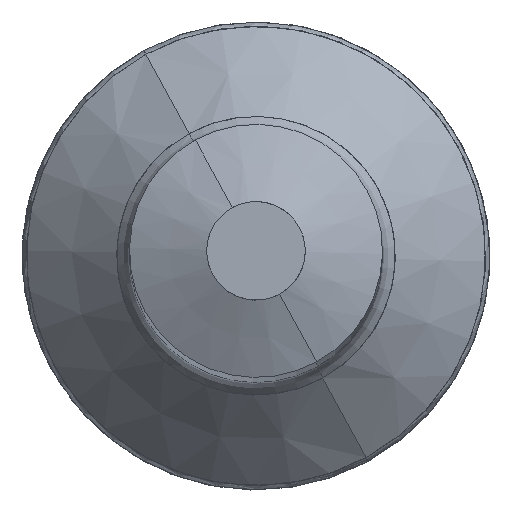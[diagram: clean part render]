
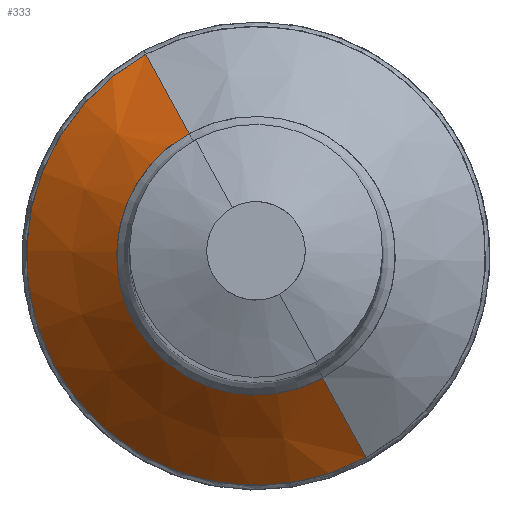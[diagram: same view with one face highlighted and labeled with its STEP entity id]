
A CAD part, top view. The second image highlights one B-rep face of the part: STEP entity #333.
In plain terms, the highlighted conical face has half-angle 45 degrees and reference radius 0 mm.
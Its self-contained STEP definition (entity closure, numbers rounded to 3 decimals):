
#333=ADVANCED_FACE('',(#377),#353,.F.);
#353=CONICAL_SURFACE('',#1028,0.,45.);
#377=FACE_OUTER_BOUND('',#407,.T.);
#407=EDGE_LOOP('',(#566,#567,#568,#569));
#460=B_SPLINE_CURVE_WITH_KNOTS('',3,(#1582,#1583,#1584,#1585),
 .UNSPECIFIED.,.F.,.F.,(4,4),(0.,1.),.UNSPECIFIED.);
#461=B_SPLINE_CURVE_WITH_KNOTS('',3,(#1589,#1590,#1591,#1592),
 .UNSPECIFIED.,.F.,.F.,(4,4),(0.,1.),.UNSPECIFIED.);
#566=ORIENTED_EDGE('',*,*,#814,.T.);
#567=ORIENTED_EDGE('',*,*,#815,.T.);
#568=ORIENTED_EDGE('',*,*,#816,.T.);
#569=ORIENTED_EDGE('',*,*,#817,.T.);
#690=VERTEX_POINT('',#1580);
#691=VERTEX_POINT('',#1581);
#692=VERTEX_POINT('',#1586);
#693=VERTEX_POINT('',#1588);
#814=EDGE_CURVE('',#690,#691,#888,.T.);
#815=EDGE_CURVE('',#691,#692,#460,.T.);
#816=EDGE_CURVE('',#692,#693,#889,.T.);
#817=EDGE_CURVE('',#693,#690,#461,.T.);
#888=CIRCLE('',#1026,9.529);
#889=CIRCLE('',#1027,15.707);
#1026=AXIS2_PLACEMENT_3D('',#1579,#1161,#1162);
#1027=AXIS2_PLACEMENT_3D('',#1587,#1163,#1164);
#1028=AXIS2_PLACEMENT_3D('',#1593,#1165,#1166);
#1161=DIRECTION('',(0.,0.,1.));
#1162=DIRECTION('',(-1.,0.,0.));
#1163=DIRECTION('',(0.,0.,-1.));
#1164=DIRECTION('',(-1.,0.,0.));
#1165=DIRECTION('',(0.,0.,-1.));
#1166=DIRECTION('',(-1.,0.,0.));
#1579=CARTESIAN_POINT('',(0.,0.,11.471));
#1580=CARTESIAN_POINT('',(-4.568,8.362,11.471));
#1581=CARTESIAN_POINT('',(4.568,-8.362,11.471));
#1582=CARTESIAN_POINT('',(4.568,-8.362,11.471));
#1583=CARTESIAN_POINT('',(5.556,-10.17,9.412));
#1584=CARTESIAN_POINT('',(6.543,-11.977,7.352));
#1585=CARTESIAN_POINT('',(7.53,-13.784,5.293));
#1586=CARTESIAN_POINT('',(7.53,-13.784,5.293));
#1587=CARTESIAN_POINT('',(0.,0.,5.293));
#1588=CARTESIAN_POINT('',(-7.53,13.784,5.293));
#1589=CARTESIAN_POINT('',(-7.53,13.784,5.293));
#1590=CARTESIAN_POINT('',(-6.543,11.977,7.352));
#1591=CARTESIAN_POINT('',(-5.556,10.17,9.412));
#1592=CARTESIAN_POINT('',(-4.568,8.362,11.471));
#1593=CARTESIAN_POINT('',(0.,0.,21.));
